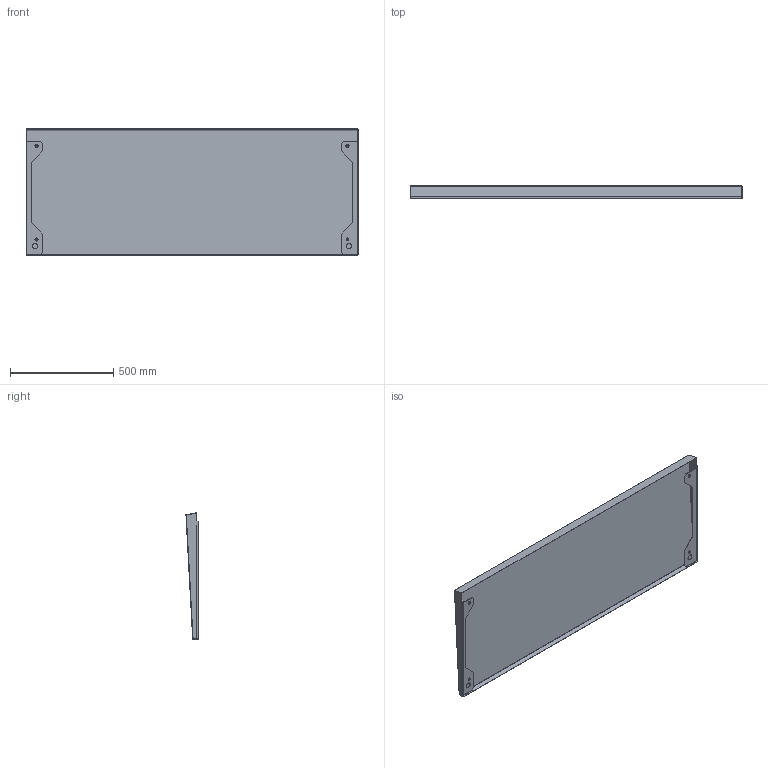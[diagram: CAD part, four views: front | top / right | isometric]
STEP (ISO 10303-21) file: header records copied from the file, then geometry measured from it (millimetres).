
FILE_DESCRIPTION (( 'STEP AP203' ), '1' );
FILE_NAME ('R 160.60 Cﾁ ﾊ鰀靍裲 鈞隆.STEP', '2012-11-21T04:31:57', ( 'system' ), ( '' ), 'SwSTEP 2.0', 'SolidWorks 2012', '' );
FILE_SCHEMA (( 'CONFIG_CONTROL_DESIGN' ));
Length unit declared in the file: millimetre
Products named in the file (1): R 160.60 Cﾁ ﾊ鰀靍裲 鈞隆
Bounding box: 1610 x 58.97 x 613.57 mm (x, y, z)
Volume: 1670834.8 mm3; surface area: 2394686.1 mm2
Topology: 5 solids, 5 shells, 152 faces, 354 edges, 224 vertices
Faces by surface type: cylinder 60, plane 60, torus 16, cone 8, sphere 8
Entity records: 4419 total; most frequent: DIRECTION 824, CARTESIAN_POINT 731, ORIENTED_EDGE 692, EDGE_CURVE 346, AXIS2_PLACEMENT_3D 329, VERTEX_POINT 220, EDGE_LOOP 188, CIRCLE 176
